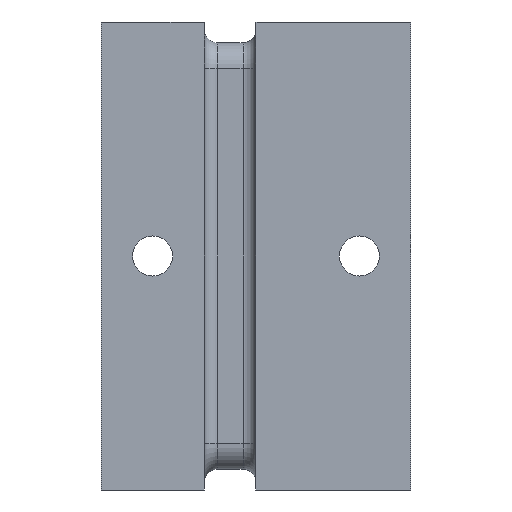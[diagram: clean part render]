
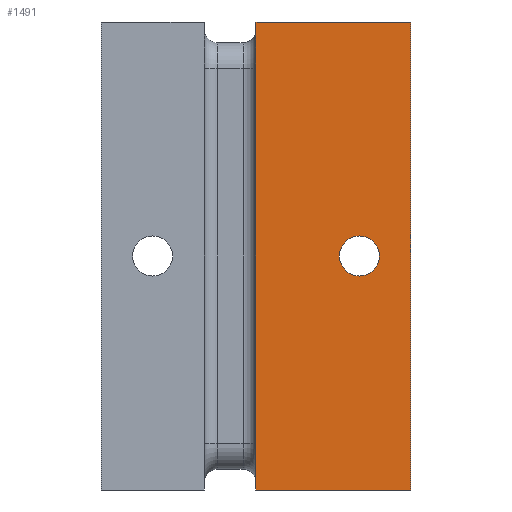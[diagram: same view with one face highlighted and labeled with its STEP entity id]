
A CAD part, front view. The second image highlights one B-rep face of the part: STEP entity #1491.
In plain terms, the highlighted planar face has unit normal (0, -1, 0).
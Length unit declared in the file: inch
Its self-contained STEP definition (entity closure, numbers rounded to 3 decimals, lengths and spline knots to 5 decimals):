
#37 = ORIENTED_EDGE ( 'NONE', *, *, #936, .F. ) ;
#52 = VERTEX_POINT ( 'NONE', #1610 ) ;
#61 = ORIENTED_EDGE ( 'NONE', *, *, #823, .F. ) ;
#208 = AXIS2_PLACEMENT_3D ( 'NONE', #2032, #1376, #1240 ) ;
#278 = EDGE_LOOP ( 'NONE', ( #477, #741 ) ) ;
#335 = DIRECTION ( 'NONE',  ( 0., 0., 1. ) ) ;
#345 = FACE_OUTER_BOUND ( 'NONE', #1404, .T. ) ;
#368 = EDGE_CURVE ( 'NONE', #1080, #1751, #707, .T. ) ;
#383 = LINE ( 'NONE', #1027, #1602 ) ;
#407 = LINE ( 'NONE', #1764, #1931 ) ;
#444 = LINE ( 'NONE', #1969, #843 ) ;
#466 = DIRECTION ( 'NONE',  ( 0., 1., 0. ) ) ;
#477 = ORIENTED_EDGE ( 'NONE', *, *, #536, .T. ) ;
#536 = EDGE_CURVE ( 'NONE', #1751, #1080, #1307, .T. ) ;
#619 = CARTESIAN_POINT ( 'NONE',  ( 0.5, 0., 0. ) ) ;
#662 = EDGE_CURVE ( 'NONE', #52, #1600, #383, .T. ) ;
#680 = ORIENTED_EDGE ( 'NONE', *, *, #662, .F. ) ;
#696 = CARTESIAN_POINT ( 'NONE',  ( 0., 0., 1.13189 ) ) ;
#706 = CARTESIAN_POINT ( 'NONE',  ( 0.5, 0., 0.09675 ) ) ;
#707 = CIRCLE ( 'NONE', #1777, 0.09675 ) ;
#728 = DIRECTION ( 'NONE',  ( 0., 0., -1. ) ) ;
#741 = ORIENTED_EDGE ( 'NONE', *, *, #368, .T. ) ;
#750 = LINE ( 'NONE', #853, #1277 ) ;
#780 = CARTESIAN_POINT ( 'NONE',  ( 0., 0., -1.13189 ) ) ;
#786 = CARTESIAN_POINT ( 'NONE',  ( 0.74803, 0., -1.13189 ) ) ;
#801 = DIRECTION ( 'NONE',  ( 0., 1., 0. ) ) ;
#823 = EDGE_CURVE ( 'NONE', #1600, #1380, #407, .T. ) ;
#843 = VECTOR ( 'NONE', #1672, 39.37008 ) ;
#853 = CARTESIAN_POINT ( 'NONE',  ( -0.74803, 0., 1.13189 ) ) ;
#936 = EDGE_CURVE ( 'NONE', #944, #52, #750, .T. ) ;
#944 = VERTEX_POINT ( 'NONE', #696 ) ;
#1027 = CARTESIAN_POINT ( 'NONE',  ( 0.74803, 0., 1.13189 ) ) ;
#1080 = VERTEX_POINT ( 'NONE', #1406 ) ;
#1084 = DIRECTION ( 'NONE',  ( 0., 0., 1. ) ) ;
#1161 = DIRECTION ( 'NONE',  ( 1., 0., 0. ) ) ;
#1240 = DIRECTION ( 'NONE',  ( 0., 0., -1. ) ) ;
#1277 = VECTOR ( 'NONE', #1161, 39.37008 ) ;
#1294 = DIRECTION ( 'NONE',  ( -1., 0., 0. ) ) ;
#1301 = AXIS2_PLACEMENT_3D ( 'NONE', #619, #466, #1084 ) ;
#1307 = CIRCLE ( 'NONE', #1301, 0.09675 ) ;
#1376 = DIRECTION ( 'NONE',  ( 0., -1., 0. ) ) ;
#1380 = VERTEX_POINT ( 'NONE', #780 ) ;
#1404 = EDGE_LOOP ( 'NONE', ( #1895, #61, #680, #37 ) ) ;
#1406 = CARTESIAN_POINT ( 'NONE',  ( 0.5, 0., -0.09675 ) ) ;
#1434 = CARTESIAN_POINT ( 'NONE',  ( 0.5, 0., 0. ) ) ;
#1491 = ADVANCED_FACE ( 'NONE', ( #2012, #345 ), #1841, .T. ) ;
#1600 = VERTEX_POINT ( 'NONE', #786 ) ;
#1602 = VECTOR ( 'NONE', #728, 39.37008 ) ;
#1610 = CARTESIAN_POINT ( 'NONE',  ( 0.74803, 0., 1.13189 ) ) ;
#1672 = DIRECTION ( 'NONE',  ( 0., 0., 1. ) ) ;
#1751 = VERTEX_POINT ( 'NONE', #706 ) ;
#1764 = CARTESIAN_POINT ( 'NONE',  ( -0.74803, 0., -1.13189 ) ) ;
#1777 = AXIS2_PLACEMENT_3D ( 'NONE', #1434, #801, #335 ) ;
#1819 = EDGE_CURVE ( 'NONE', #1380, #944, #444, .T. ) ;
#1841 = PLANE ( 'NONE',  #208 ) ;
#1895 = ORIENTED_EDGE ( 'NONE', *, *, #1819, .F. ) ;
#1931 = VECTOR ( 'NONE', #1294, 39.37008 ) ;
#1969 = CARTESIAN_POINT ( 'NONE',  ( 0., 0., 0. ) ) ;
#2012 = FACE_BOUND ( 'NONE', #278, .T. ) ;
#2032 = CARTESIAN_POINT ( 'NONE',  ( 0., 0., 0. ) ) ;
